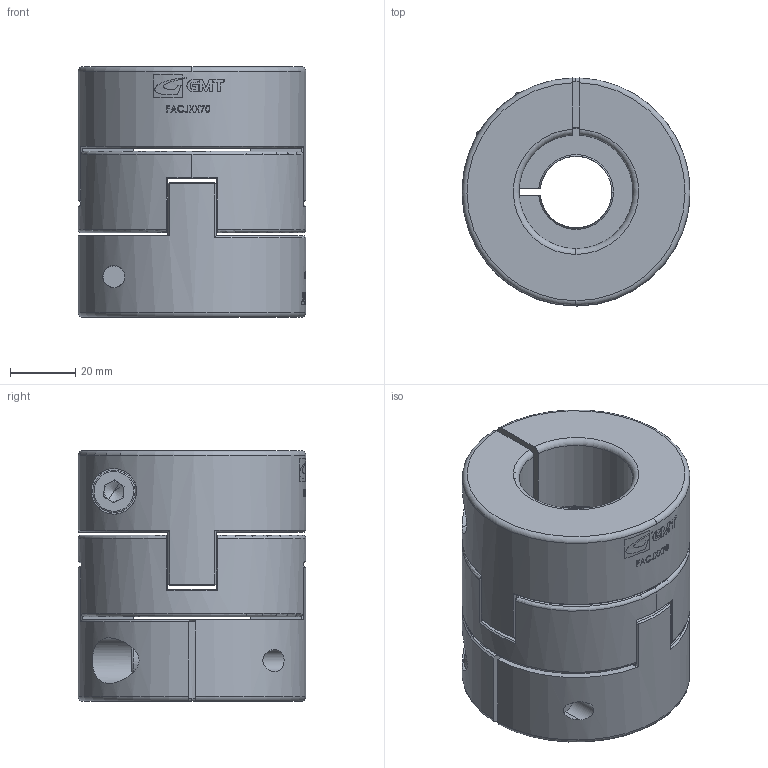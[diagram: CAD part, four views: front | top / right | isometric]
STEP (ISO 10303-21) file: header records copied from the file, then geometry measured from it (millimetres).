
FILE_DESCRIPTION (( 'STEP AP203' ), '1' );
FILE_NAME ('FACJ70.STEP', '2008-04-04T08:34:41', ( '陳志豪' ), ( '高明鐵企業股份有限公司' ), 'SwSTEP 2.0', 'SolidWorks 2007', '' );
FILE_SCHEMA (( 'CONFIG_CONTROL_DESIGN' ));
Length unit declared in the file: millimetre
Products named in the file (1): FACJ70
Bounding box: 70 x 70 x 77 mm (x, y, z)
Surface area: 48548 mm2 (no closed solid volume)
Topology: 0 solids, 15 shells, 233 faces, 1205 edges, 947 vertices
Faces by surface type: plane 107, cylinder 51, bspline 34, cone 24, torus 17
Entity records: 18067 total; most frequent: CARTESIAN_POINT 9852, ORIENTED_EDGE 1640, DIRECTION 1305, EDGE_CURVE 1201, VERTEX_POINT 947, B_SPLINE_CURVE_WITH_KNOTS 579, AXIS2_PLACEMENT_3D 485, LINE 335
